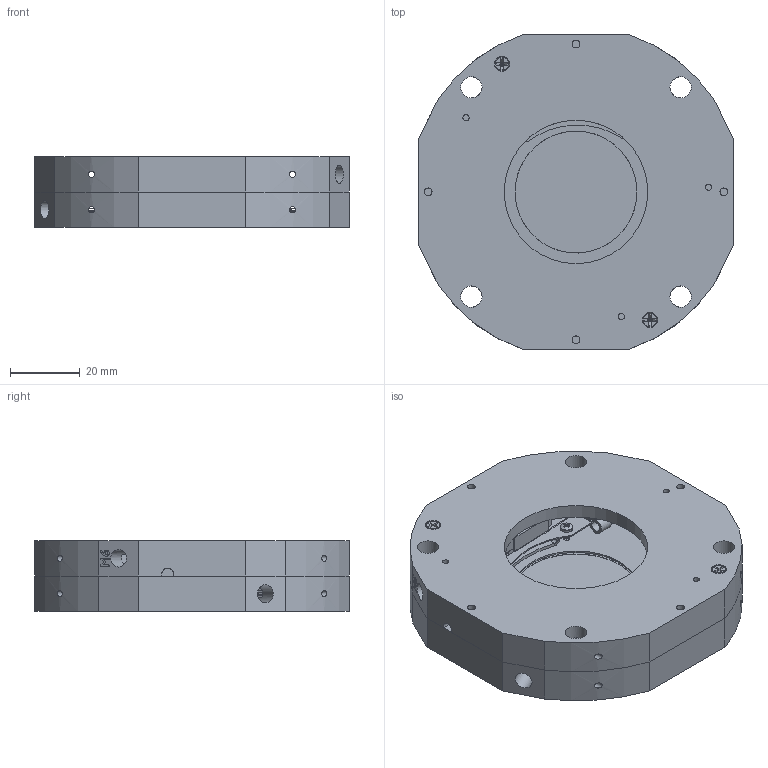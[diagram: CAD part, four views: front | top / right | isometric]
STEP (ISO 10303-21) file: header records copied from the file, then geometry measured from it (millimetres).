
FILE_DESCRIPTION (( 'STEP AP214' ), '1' );
FILE_NAME ('FS35FULL.STEP', '2019-10-02T14:09:33', ( '' ), ( '' ), 'SwSTEP 2.0', 'SolidWorks 2018', '' );
FILE_SCHEMA (( 'AUTOMOTIVE_DESIGN' ));
Length unit declared in the file: inch
Products named in the file (1): FS35FULL
Bounding box: 90.17 x 90.17 x 20.32 mm (x, y, z)
Surface area: 53826.8 mm2 (no closed solid volume)
Topology: 0 solids, 45 shells, 282 faces, 1196 edges, 944 vertices
Faces by surface type: plane 160, cylinder 100, bspline 7, torus 7, cone 6, sphere 2
Full cylindrical faces by diameter (mm): 0.889 x1, 1.27 x1, 1.524 x1, 1.778 x14, 1.854 x1, 1.88 x1, 2.261 x8, 2.337 x1, 2.388 x2, 3.607 x2, 3.734 x4, 3.81 x1, 5 x2, 5.105 x2, 6.096 x8, 35 x3, 38.1 x1, 41.148 x2, 70.612 x1
Entity records: 17137 total; most frequent: CARTESIAN_POINT 3584, DIRECTION 2176, ORIENTED_EDGE 1516, EDGE_CURVE 1118, VERTEX_POINT 931, AXIS2_PLACEMENT_3D 823, CIRCLE 547, EDGE_LOOP 535
